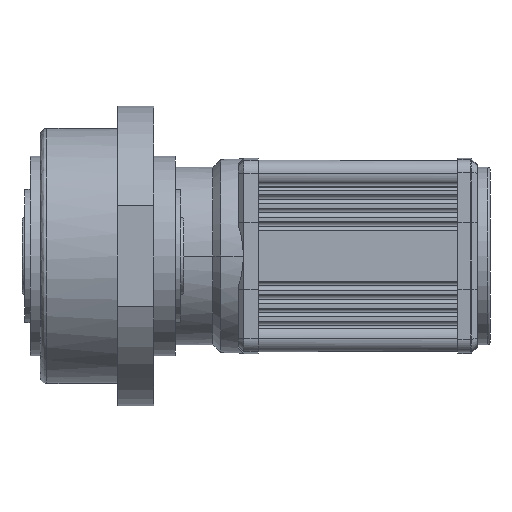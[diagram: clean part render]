
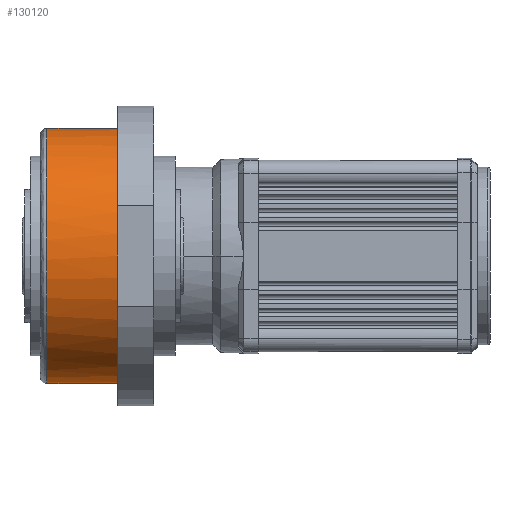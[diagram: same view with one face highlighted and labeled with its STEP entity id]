
A CAD part, front view. The second image highlights one B-rep face of the part: STEP entity #130120.
In plain terms, the highlighted cylindrical face has radius 57.5 mm (diameter 115 mm), a partial arc.
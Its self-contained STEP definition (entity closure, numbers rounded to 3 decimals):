
#108300=CARTESIAN_POINT('',(-285.758,-197.045,
45.017));
#108310=DIRECTION('',(-1.,0.,0.));
#108320=DIRECTION('',(0.,0.,-1.));
#108330=AXIS2_PLACEMENT_3D('',#108300,#108310,#108320);
#108340=CYLINDRICAL_SURFACE('',#108330,57.5);
#108450=CARTESIAN_POINT('',(-250.758,-197.045,
45.017));
#108460=DIRECTION('',(-1.,0.,0.));
#108470=DIRECTION('',(0.,0.,-1.));
#108480=AXIS2_PLACEMENT_3D('',#108450,#108460,#108470);
#108490=CIRCLE('',#108480,57.5);
#108500=CARTESIAN_POINT('',(-250.758,-197.045,
-12.483));
#108510=VERTEX_POINT('',#108500);
#108540=CARTESIAN_POINT('',(-285.758,-197.045,
-12.483));
#108550=DIRECTION('',(-1.,0.,0.));
#108560=VECTOR('',#108550,1.);
#108570=LINE('',#108540,#108560);
#108580=CARTESIAN_POINT('',(-282.758,-197.045,
-12.483));
#108590=VERTEX_POINT('',#108580);
#108600=EDGE_CURVE('',#108510,#108590,#108570,.T.);
#108620=CARTESIAN_POINT('',(-282.758,-206.683,
101.704));
#108630=CARTESIAN_POINT('',(-282.758,-206.612,
101.716));
#108640=CARTESIAN_POINT('',(-282.758,-206.538,
101.728));
#108650=CARTESIAN_POINT('',(-282.758,-206.393,
101.753));
#108660=CARTESIAN_POINT('',(-282.758,-206.321,
101.764));
#108670=CARTESIAN_POINT('',(-282.758,-203.405,
102.237));
#108680=CARTESIAN_POINT('',(-282.758,-200.524,
102.485));
#108690=CARTESIAN_POINT('',(-282.758,-192.884,
102.563));
#108700=CARTESIAN_POINT('',(-282.758,-188.147,
102.023));
#108710=CARTESIAN_POINT('',(-282.758,-178.914,
99.79));
#108720=CARTESIAN_POINT('',(-282.758,-174.454,
98.107));
#108730=CARTESIAN_POINT('',(-282.758,-166.049,
93.68));
#108740=CARTESIAN_POINT('',(-282.758,-162.137,
90.955));
#108750=CARTESIAN_POINT('',(-282.758,-155.073,
84.605));
#108760=CARTESIAN_POINT('',(-282.758,-151.948,
81.004));
#108770=CARTESIAN_POINT('',(-282.758,-146.654,
73.117));
#108780=CARTESIAN_POINT('',(-282.758,-144.506,
68.861));
#108790=CARTESIAN_POINT('',(-282.758,-141.796,
61.287));
#108800=CARTESIAN_POINT('',(-282.758,-140.955,
58.094));
#108810=CARTESIAN_POINT('',(-282.758,-139.828,
51.601));
#108820=CARTESIAN_POINT('',(-282.758,-139.545,
48.312));
#108830=CARTESIAN_POINT('',(-282.758,-139.545,
45.017));
#108840=CARTESIAN_POINT('',(-282.758,-139.545,
40.268));
#108850=CARTESIAN_POINT('',(-282.758,-140.133,
35.537));
#108860=CARTESIAN_POINT('',(-282.758,-142.46,
26.327));
#108870=CARTESIAN_POINT('',(-282.758,-144.19,
21.884));
#108880=CARTESIAN_POINT('',(-282.758,-148.702,
13.525));
#108890=CARTESIAN_POINT('',(-282.758,-151.467,
9.642));
#108900=CARTESIAN_POINT('',(-282.758,-157.889,
2.643));
#108910=CARTESIAN_POINT('',(-282.758,-161.521,
-0.445));
#108920=CARTESIAN_POINT('',(-282.758,-169.462,
-5.658));
#108930=CARTESIAN_POINT('',(-282.758,-173.74,
-7.762));
#108940=CARTESIAN_POINT('',(-282.758,-182.716,
-10.871));
#108950=CARTESIAN_POINT('',(-282.758,-187.38,
-11.863));
#108960=CARTESIAN_POINT('',(-282.758,-196.843,
-12.678));
#108970=CARTESIAN_POINT('',(-282.758,-201.608,
-12.498));
#108980=CARTESIAN_POINT('',(-282.758,-206.356,
-11.724));
#108990=CARTESIAN_POINT('',(-282.758,-206.421,
-11.713));
#109000=CARTESIAN_POINT('',(-282.758,-206.552,
-11.691));
#109010=CARTESIAN_POINT('',(-282.758,-206.619,
-11.68));
#109020=CARTESIAN_POINT('',(-282.758,-206.683,
-11.669));
#109030=B_SPLINE_CURVE_WITH_KNOTS('',3,(#108620,#108630,#108640,#108650,
#108660,#108670,#108680,#108690,#108700,#108710,#108720,#108730,#108740,
#108750,#108760,#108770,#108780,#108790,#108800,#108810,#108820,#108830,
#108840,#108850,#108860,#108870,#108880,#108890,#108900,#108910,#108920,
#108930,#108940,#108950,#108960,#108970,#108980,#108990,#109000,#109010,
#109020),.UNSPECIFIED.,.F.,.F.,(4,2,2,2,2,2,2,2,2,2,3,2,2,2,2,2,2,2,2,4)
,(0.,0.2,0.401,8.841,22.71
,36.578,50.446,64.314,78.182,
87.804,97.425,111.293,125.161,
139.029,152.898,166.766,180.634,
194.502,194.681,194.861),.UNSPECIFIED.);
#111190=CARTESIAN_POINT('',(-250.758,-197.045,
102.517));
#111200=VERTEX_POINT('',#111190);
#111230=EDGE_CURVE('',#111200,#108510,#108490,.T.);
#120280=CARTESIAN_POINT('',(-282.758,-197.045,
102.517));
#120290=VERTEX_POINT('',#120280);
#120300=EDGE_CURVE('',#120290,#108590,#109030,.T.);
#130010=ORIENTED_EDGE('',*,*,#120300,.F.);
#130020=ORIENTED_EDGE('',*,*,#108600,.T.);
#130030=ORIENTED_EDGE('',*,*,#111230,.T.);
#130040=CARTESIAN_POINT('',(-285.758,-197.045,
102.517));
#130050=DIRECTION('',(-1.,0.,0.));
#130060=VECTOR('',#130050,1.);
#130070=LINE('',#130040,#130060);
#130080=EDGE_CURVE('',#111200,#120290,#130070,.T.);
#130090=ORIENTED_EDGE('',*,*,#130080,.F.);
#130100=EDGE_LOOP('',(#130090,#130030,#130020,#130010));
#130110=FACE_OUTER_BOUND('',#130100,.T.);
#130120=ADVANCED_FACE('',(#130110),#108340,.T.);
